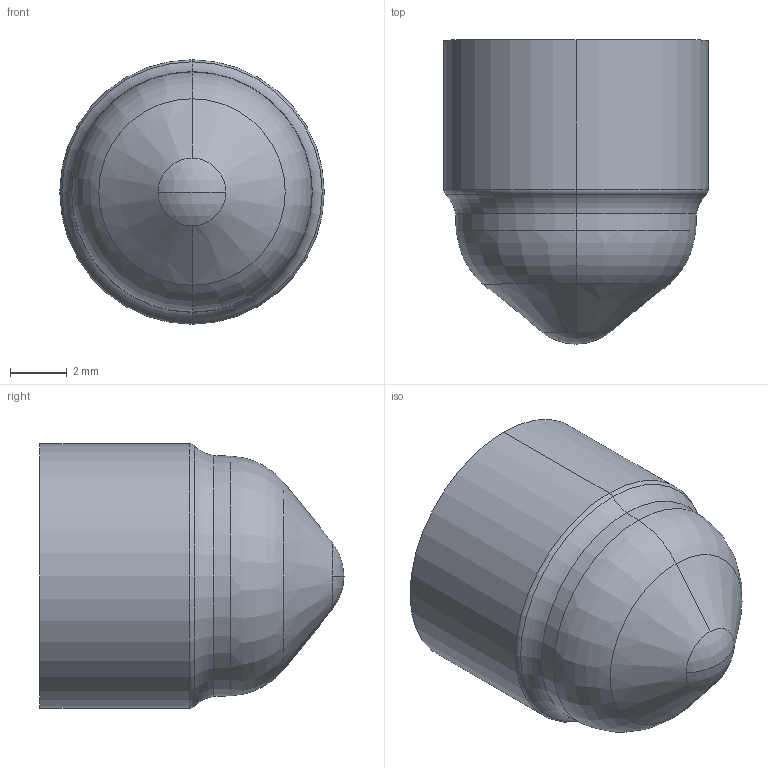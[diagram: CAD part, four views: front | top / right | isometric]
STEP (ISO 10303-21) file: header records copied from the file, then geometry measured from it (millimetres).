
FILE_DESCRIPTION (( 'STEP AP214' ), '1' );
FILE_NAME ('NORDSONEFD-7012317 PISTON O 3CC OR FLAT.STEP', '2019-12-17T14:32:08', ( '' ), ( '' ), 'SwSTEP 2.0', 'SolidWorks 2019', '' );
FILE_SCHEMA (( 'AUTOMOTIVE_DESIGN' ));
Length unit declared in the file: inch
Products named in the file (1): NORDSONEFD-7012317 PISTON O 3CC OR FLAT
Bounding box: 9.35 x 10.75 x 9.35 mm (x, y, z)
Volume: 181.1 mm3; surface area: 549.6 mm2
Topology: 1 solids, 1 shells, 134 faces, 350 edges, 225 vertices
Faces by surface type: bspline 43, plane 41, cylinder 22, torus 18, cone 8, sphere 2
Entity records: 6093 total; most frequent: CARTESIAN_POINT 3048, ORIENTED_EDGE 700, DIRECTION 506, EDGE_CURVE 350, VERTEX_POINT 225, AXIS2_PLACEMENT_3D 186, EDGE_LOOP 141, ADVANCED_FACE 134
